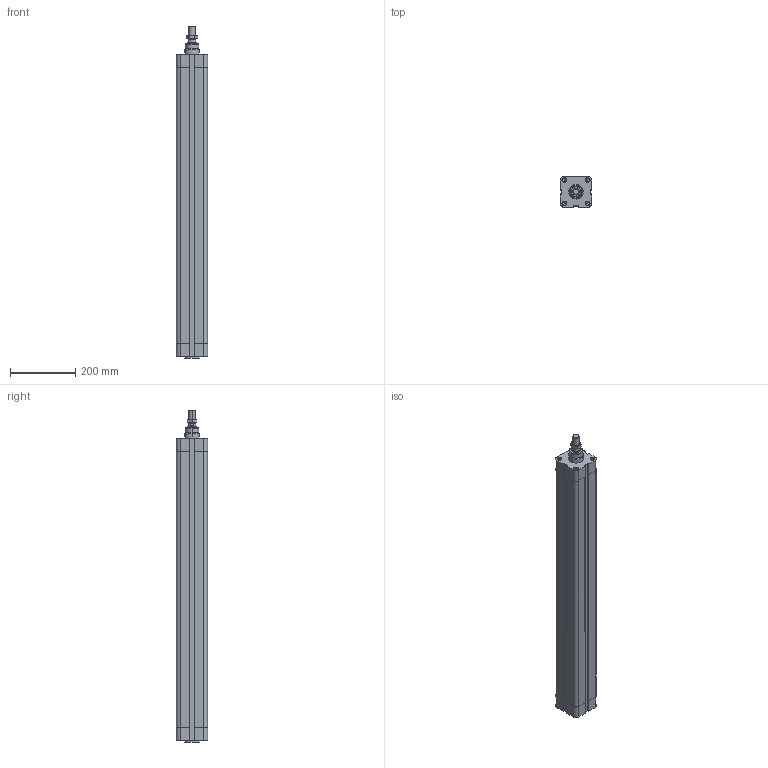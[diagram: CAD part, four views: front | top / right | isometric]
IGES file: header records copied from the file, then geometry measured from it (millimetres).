
Global section: file name: No Iges File Name specified; native system: AutoDesk Inventor R6.1; preprocessor: AutoDesk Inventor Iges Exporter R6.1; author: No Author specified; organization: No Organization specified; date: 20040107.171528; units: millimetre
Bounding box: 95.5 x 95.5 x 1018 mm (x, y, z)
Volume: 8193033.5 mm3; surface area: 553337 mm2
Topology: 3 solids, 3 shells, 244 faces, 570 edges, 356 vertices
Faces by surface type: plane 83, bspline 67, cylinder 34, revolution 34, cone 24, torus 2
